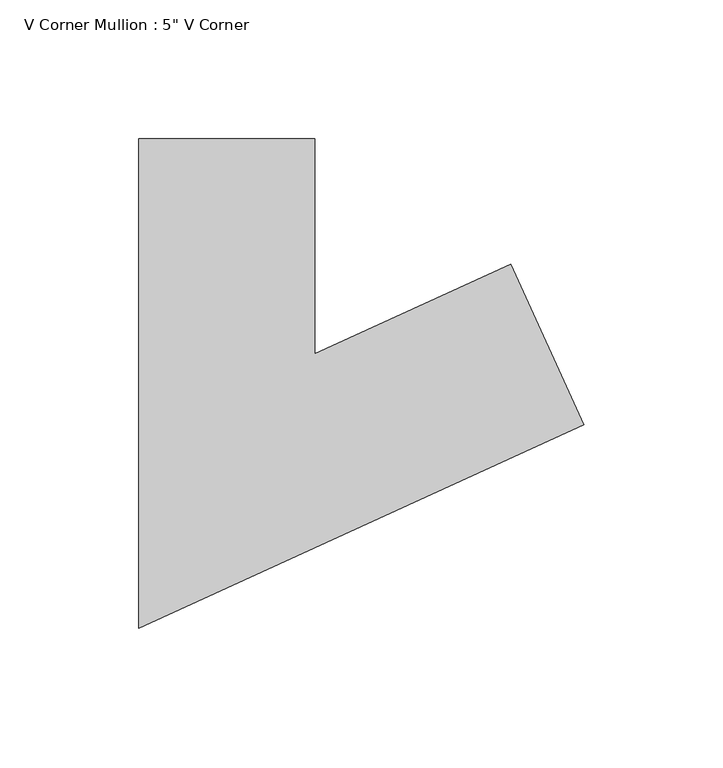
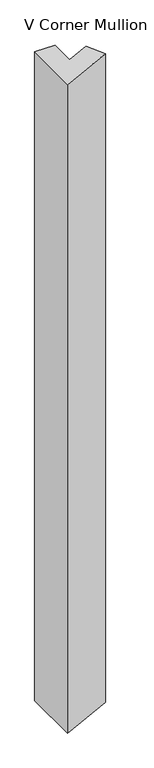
"""IFC4 building model written with IfcOpenShell, lengths in millimetres: member geometry."""

from ifc_helpers import new_model, si_unit, frame, origin, place, context, project, spatial, polyline, outline, extrude, source, transform, mapped, element, save


def member_8a652077(model_context):
    return source(origin(), model_context, "Body", "SweptSolid", [
        extrude(outline(polyline([(87.9205542, -39.5195451), (-72.5228811, -112.9476953), (-72.5228811, 63.5), (-9.0228811, 63.5), (-9.0228811, -14.0523047), (61.49523, 18.2208415), (87.9205542, -39.5195451)])), frame((0.0, 0.0, -2133.6), z_axis=(0.0, 0.0, 1.0), x_axis=(1.0, 0.0, 0.0)), (0.0, 0.0, 1.0), 2133.6),
    ])


if __name__ == "__main__":
    model = new_model("IFC4")
    model_context = context("Model", 3, world=origin())
    ifc_project = project(units=[si_unit("LENGTHUNIT", "METRE", prefix="MILLI")], contexts=[model_context])
    site = spatial("IfcSite", under=ifc_project)
    building = spatial("IfcBuilding", under=site)
    placement = place(None, origin())
    member_shape = member_8a652077(model_context)
    element("IfcMember", 1, ObjectType="V Corner Mullion : 5\" V Corner", at=placement, inside=building, context=model_context, shape_type="MappedRepresentation", body=[
        mapped(member_shape, transform((0.0, 0.0, 0.0), x_axis=(1.0, 0.0, 0.0), y_axis=(0.0, 1.0, 0.0), z_axis=(0.0, 0.0, 1.0))),
    ])
    save(model, "model.ifc")
